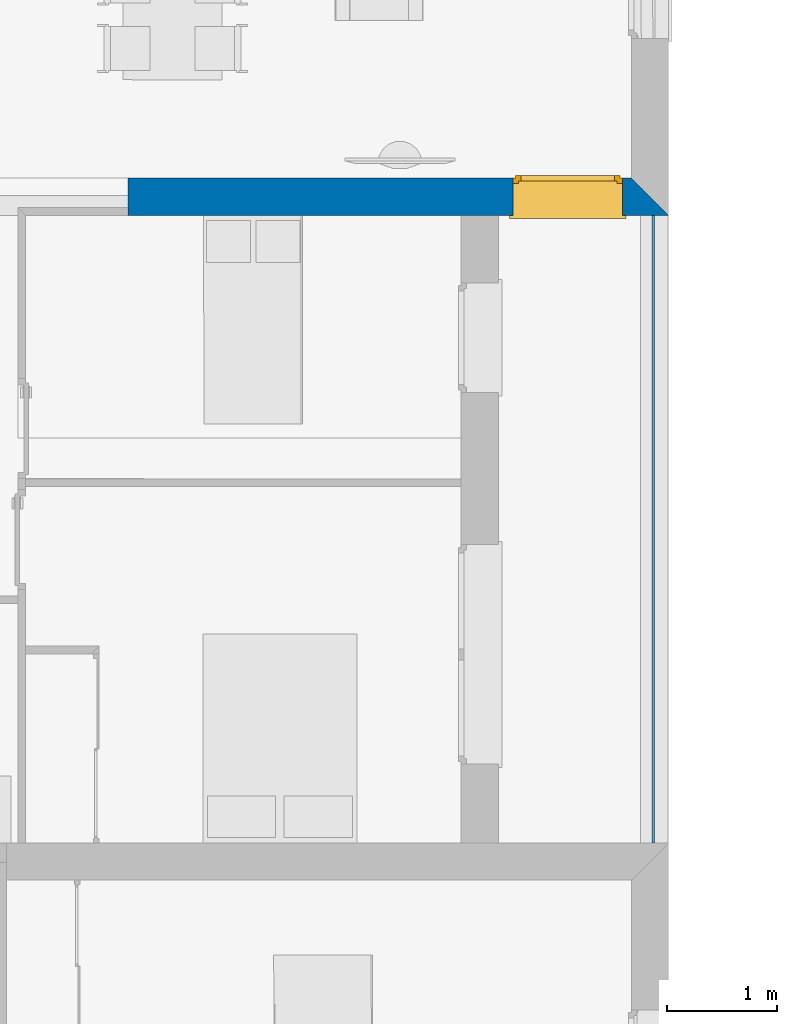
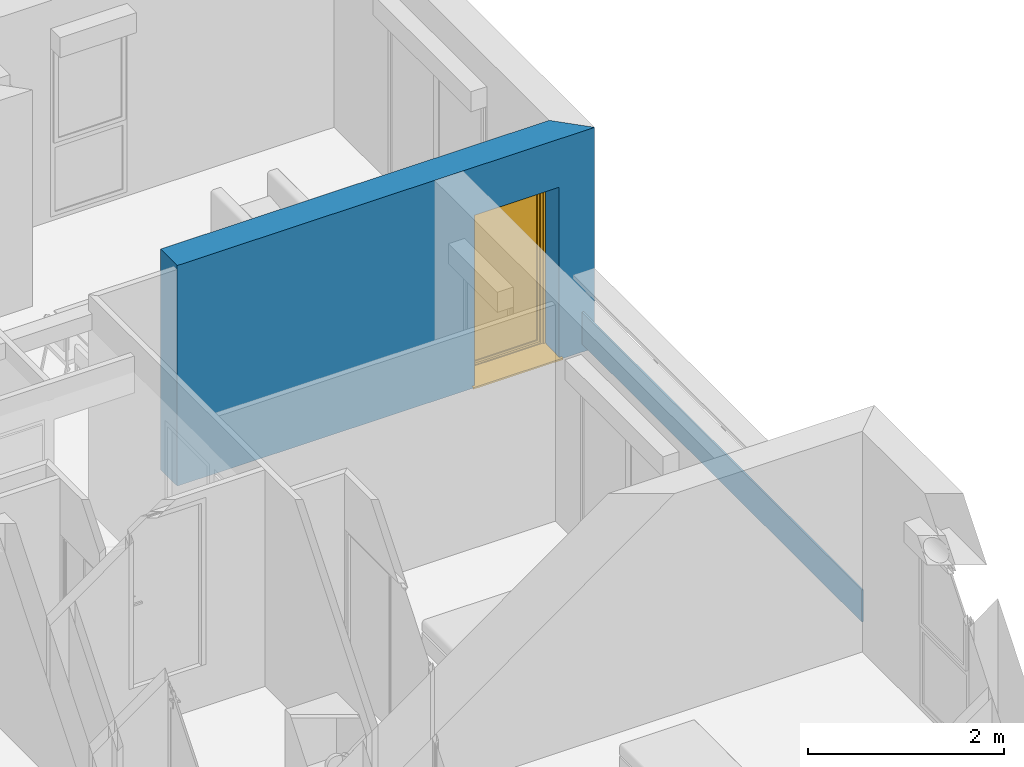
# One storey, part 38 of 164: 2 walls, 1 window, 1 opening.
"""IFC2X3 building model written with IfcOpenShell, lengths in millimetres."""

from ifc_helpers import new_model, entity, si_unit, converted_unit, derived_unit, money_unit, direction, frame, origin_with_axes, place, context, subcontext, project, spatial, polyline, outline, extrude, open_shell, faceted_brep, surface_model, source, transform, mapped, material, layer, layer_set, layer_usage, type_object, element, fill, save


model = new_model("IFC2X3")

# Units and contexts
model_context = context("Model", 3, precision=0.01, world=origin_with_axes(), true_north=direction((0.0, 1.0)))
body_context = subcontext(model_context, "Body", "Model", "MODEL_VIEW")
ifc_project = project(units=[si_unit("LENGTHUNIT", "METRE", prefix="MILLI"), si_unit("AREAUNIT", "SQUARE_METRE"), si_unit("VOLUMEUNIT", "CUBIC_METRE"), converted_unit("PLANEANGLEUNIT", "DEGREE", entity("IfcPlaneAngleMeasure", 0.0174532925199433), si_unit("PLANEANGLEUNIT", "RADIAN"), dimensions=[0, 0, 0, 0, 0, 0, 0]), money_unit("USD"), converted_unit("TIMEUNIT", "Year", entity("IfcTimeMeasure", 31557600.0), si_unit("TIMEUNIT", "SECOND"), dimensions=[0, 0, 1, 0, 0, 0, 0]), si_unit("MASSUNIT", "GRAM", prefix="KILO"), si_unit("THERMODYNAMICTEMPERATUREUNIT", "DEGREE_CELSIUS"), si_unit("LUMINOUSINTENSITYUNIT", "LUMEN"), si_unit("ENERGYUNIT", "JOULE", prefix="MEGA"), derived_unit("THERMALCONDUCTANCEUNIT", [(si_unit("POWERUNIT", "WATT"), 1), (si_unit("LENGTHUNIT", "METRE"), -1), (si_unit("THERMODYNAMICTEMPERATUREUNIT", "KELVIN"), -1)]), derived_unit("SPECIFICHEATCAPACITYUNIT", [(si_unit("ENERGYUNIT", "JOULE"), 1), (si_unit("MASSUNIT", "GRAM", prefix="KILO"), -1), (si_unit("THERMODYNAMICTEMPERATUREUNIT", "KELVIN"), -1)]), derived_unit("MASSDENSITYUNIT", [(si_unit("MASSUNIT", "GRAM", prefix="KILO"), 1), (si_unit("VOLUMEUNIT", "CUBIC_METRE"), -1)])], contexts=[model_context])

# Site, building, storey
site_placement = place(None, origin_with_axes())
site = spatial("IfcSite", under=ifc_project, at=site_placement, Name="Site", CompositionType="ELEMENT")
building_placement = place(site_placement, origin_with_axes())
building = spatial("IfcBuilding", under=site, at=building_placement, Name="Bâtiment", CompositionType="ELEMENT")
storey_placement = place(building_placement, frame((0.0, 0.0, 5750.0), z_axis=(0.0, 0.0, 1.0), x_axis=(1.0, 0.0, 0.0)))
storey = spatial("IfcBuildingStorey", under=building, at=storey_placement, Name="Etage1", CompositionType="ELEMENT", Elevation=5750.0)

# Wall
ifc_material_1 = material(Name="MANQUANT")
ifc_layer_1 = layer(ifc_material_1, 20.0, ventilated="UNKNOWN")
ifc_layer_set_1 = layer_set([ifc_layer_1], Name="MANQUANT 20")
ifc_layer_usage_1 = layer_usage(ifc_layer_set_1, "AXIS2", "NEGATIVE", 20.0)
wall_type_1 = type_object("IfcWallType", Name="MANQUANT 20", PredefinedType="NOTDEFINED")
wall_1_placement = place(storey_placement, frame((2234226.671296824, -646738.4413036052, 99.99999999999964), z_axis=(0.0, 0.0, 1.0), x_axis=(0.0, 1.0, 0.0)))
element("IfcWallStandardCase", 1, at=wall_1_placement, inside=storey, type_object=wall_type_1, material=ifc_layer_usage_1, Name="Mur-154", context=body_context, shape_type="SweptSolid", body=[
    extrude(outline(polyline([(0.0, 0.0), (5713.115765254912, 0.0), (5713.115765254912, 19.99999999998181), (0.0, 19.99999999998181), (0.0, 0.0)])), origin_with_axes(), (0.0, 0.0, 1.0), 400.0),
])

# Wall, opening, window
ifc_material_2 = material(Name="Parpaing 312445824")
ifc_layer_2 = layer(ifc_material_2, 180.0, ventilated="UNKNOWN")
ifc_material_3 = material(Name="Isolant styromousse 301821074")
ifc_layer_3 = layer(ifc_material_3, 160.0, ventilated="UNKNOWN")
ifc_layer_set_2 = layer_set([ifc_layer_2, ifc_layer_3], Name="isol int 18+16 0018356637")
ifc_layer_usage_2 = layer_usage(ifc_layer_set_2, "AXIS2", "NEGATIVE", 0.0)
wall_type_2 = type_object("IfcWallType", Name="isol int 18+16 0018356637 340", PredefinedType="NOTDEFINED")
wall_2_placement = place(storey_placement, frame((2234356.671296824, -641025.3255383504, 0.0), z_axis=(0.0, 0.0, 1.0), x_axis=(-1.0, 0.0, 0.0)))
wall_2 = element("IfcWallStandardCase", 2, at=wall_2_placement, inside=storey, type_object=wall_type_2, material=ifc_layer_usage_2, Name="Mur-144", context=body_context, shape_type="SweptSolid", body=[
    extrude(outline(polyline([(340.0000000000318, -340.0000000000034), (4921.858404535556, -340.0000000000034), (4921.858404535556, 0.0), (0.0, 0.0), (340.0000000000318, -340.0000000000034)])), origin_with_axes(), (0.0, 0.0, 1.0), 2750.0),
])
opening_placement = place(wall_2_placement, frame((918.6808707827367, 0.0, 0.0), z_axis=(0.0, 0.0, 1.0), x_axis=(1.0, 0.0, 0.0)))
opening = element("IfcOpeningElement", 3, at=opening_placement, cuts=wall_2, Name="Fen-134", context=body_context, shape_type="Brep", body=[
    faceted_brep([(500.0, -341.0000000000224, 2150.000000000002), (-500.0, -341.0000000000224, 2150.000000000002), (-500.0, -341.0000000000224, 0.0), (500.0, -341.0000000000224, 0.0), (500.0, -530.0000000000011, 2150.000000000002), (-500.0, -530.0000000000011, 2150.000000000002), (-500.0, -290.0000000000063, 2150.000000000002), (-500.0, -290.0000000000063, 0.0), (-500.0, 1.000000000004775, 0.0), (500.0, 1.000000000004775, 0.0), (500.0, -290.0000000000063, 0.0), (500.0, -290.0000000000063, 2150.000000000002), (500.0, -280.0000000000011, 2150.000000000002), (500.0, -280.0000000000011, 2400.000000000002), (500.0, -530.0000000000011, 2400.000000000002), (-500.0, -530.0000000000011, 2400.000000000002), (-500.0, -280.0000000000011, 2400.000000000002), (-500.0, -280.0000000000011, 2150.000000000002), (-500.0, 1.000000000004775, 2150.000000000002), (500.0, 1.000000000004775, 2150.000000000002)], [[[0, 1, 2, 3]], [[1, 0, 4, 5]], [[1, 6, 7, 2]], [[7, 8, 9, 10, 3, 2]], [[11, 0, 3, 10]], [[0, 11, 12, 13, 14, 4]], [[15, 5, 4, 14]], [[6, 1, 5, 15, 16, 17]], [[6, 17, 18, 8, 7]], [[19, 9, 8, 18]], [[12, 11, 10, 9, 19]], [[12, 17, 16, 13]], [[16, 15, 14, 13]], [[17, 12, 19, 18]]]),
])
window_style = type_object("IfcWindowStyle", Name="Fenêtre 27", ConstructionType="NOTDEFINED", OperationType="SINGLE_PANEL", ParameterTakesPrecedence=False, Sizeable=False)
shared_shape = source(origin_with_axes(), body_context, "Body", "SurfaceModel", [
    surface_model("IfcShellBasedSurfaceModel", [(500.0, -51.00000000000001, 40.00000000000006), (500.0, -51.00000000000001, 50.00000000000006), (-500.0, -51.00000000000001, 50.0), (-500.0, -51.00000000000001, 40.0), (530.0, -369.9999999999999, 28.96551724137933), (530.0, -339.9999999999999, 30.00324289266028), (500.0, -339.9999999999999, 30.00324289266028), (-500.0, -339.9999999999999, 30.00324289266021), (-530.0, -339.9999999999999, 30.00324289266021), (-530.0, -369.9999999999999, 28.96551724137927), (530.0, -369.9999999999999, 8.96551724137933), (-530.0, -369.9999999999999, 8.965517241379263), (530.0, -359.9999999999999, 18.96551724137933), (-530.0, -359.9999999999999, 18.96551724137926)], [open_shell([[[0, 1, 2, 3]], [[4, 5, 6, 0, 3, 7, 8, 9]], [[10, 4, 9, 11]], [[12, 10, 11, 13]]])]),
    faceted_brep([(-500.0, -59.99999999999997, 2400.0), (-497.0, -59.99999999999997, 2400.0), (-497.0, 190.0, 2400.0), (-500.0, 190.0, 2400.0), (-500.0, -59.99999999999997, 2150.0), (-497.0, -59.99999999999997, 2150.0), (-497.0, 190.0, 2150.0), (-500.0, 190.0, 2150.0)], [[[0, 1, 2, 3]], [[4, 5, 1, 0]], [[1, 5, 6, 2]], [[3, 2, 6, 7]], [[0, 3, 7, 4]], [[7, 6, 5, 4]]]),
    faceted_brep([(497.0, -59.99999999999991, 2400.0), (500.0, -59.99999999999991, 2400.0), (500.0, 190.0000000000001, 2400.0), (497.0, 190.0000000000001, 2400.0), (497.0, -59.99999999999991, 2150.0), (500.0, -59.99999999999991, 2150.0), (500.0, 190.0000000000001, 2150.0), (497.0, 190.0000000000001, 2150.0)], [[[0, 1, 2, 3]], [[4, 5, 1, 0]], [[1, 5, 6, 2]], [[3, 2, 6, 7]], [[0, 3, 7, 4]], [[7, 6, 5, 4]]]),
    faceted_brep([(-497.0, -60.0, 2150.0), (497.0, -59.99999999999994, 2150.0), (497.0, -59.99999999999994, 2400.0), (-497.0, -60.0, 2400.0), (-497.0, -56.99999999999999, 2150.0), (497.0, -56.99999999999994, 2150.0), (497.0, -56.99999999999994, 2397.0), (497.0, 187.0000000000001, 2397.0), (497.0, 187.0000000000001, 2153.0), (497.0, -37.99999999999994, 2153.0), (497.0, -37.99999999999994, 2150.0), (497.0, 190.0000000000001, 2150.0), (497.0, 190.0000000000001, 2400.0), (-497.0, 190.0, 2400.0), (-497.0, 190.0, 2150.0), (-497.0, -37.99999999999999, 2150.0), (-497.0, -37.99999999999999, 2153.0), (-497.0, 187.0, 2153.0), (-497.0, 187.0, 2397.0), (-497.0, -56.99999999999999, 2397.0)], [[[0, 1, 2, 3]], [[4, 5, 1, 0]], [[1, 5, 6, 7, 8, 9, 10, 11, 12, 2]], [[3, 2, 12, 13]], [[0, 3, 13, 14, 15, 16, 17, 18, 19, 4]], [[19, 6, 5, 4]], [[18, 7, 6, 19]], [[17, 8, 7, 18]], [[16, 9, 8, 17]], [[15, 10, 9, 16]], [[14, 11, 10, 15]], [[13, 12, 11, 14]]]),
    faceted_brep([(-494.0, -40.37442957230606, 2256.419644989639), (-494.0, -41.99999999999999, 2275.0), (-494.0, -40.37442957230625, 2293.580355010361), (-494.0, -35.54711042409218, 2311.596155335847), (-494.0, -27.66471820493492, 2328.5), (-494.0, -16.96675541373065, 2343.77827423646), (-494.0, -3.778274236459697, 2356.96675541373), (-494.0, 11.5, 2367.664718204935), (-494.0, 28.40384466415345, 2375.547110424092), (-494.0, 46.41964498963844, 2380.374429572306), (-494.0, 64.99999999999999, 2382.0), (-494.0, 83.58035501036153, 2380.374429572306), (-494.0, 101.5961553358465, 2375.547110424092), (-494.0, 118.5, 2367.664718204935), (-494.0, 133.7782742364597, 2356.96675541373), (-494.0, 146.9667554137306, 2343.77827423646), (-494.0, 157.6647182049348, 2328.5), (-494.0, 165.5471104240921, 2311.596155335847), (-494.0, 170.3744295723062, 2293.580355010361), (-494.0, 171.9999999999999, 2275.0), (-494.0, 170.3744295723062, 2256.419644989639), (-494.0, 165.5471104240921, 2238.403844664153), (-494.0, 157.6647182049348, 2221.5), (-494.0, 146.9667554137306, 2206.22172576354), (-494.0, 133.7782742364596, 2193.033244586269), (-494.0, 118.4999999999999, 2182.335281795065), (-494.0, 101.5961553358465, 2174.452889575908), (-494.0, 83.58035501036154, 2169.625570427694), (-494.0, 65.00000000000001, 2168.0), (-494.0, 46.4196449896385, 2169.625570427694), (-494.0, 28.40384466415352, 2174.452889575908), (-494.0, 11.50000000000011, 2182.335281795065), (-494.0, -3.778274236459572, 2193.033244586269), (-494.0, -16.9667554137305, 2206.22172576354), (-494.0, -27.66471820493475, 2221.5), (-494.0, -35.54711042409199, 2238.403844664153), (494.0, -40.374429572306, 2256.419644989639), (494.0, -41.99999999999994, 2275.0), (494.0, -40.37442957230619, 2293.580355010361), (494.0, -35.54711042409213, 2311.596155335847), (494.0, -27.66471820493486, 2328.5), (494.0, -16.96675541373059, 2343.77827423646), (494.0, -3.778274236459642, 2356.96675541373), (494.0, 11.50000000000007, 2367.664718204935), (494.0, 28.40384466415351, 2375.547110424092), (494.0, 46.41964498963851, 2380.374429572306), (494.0, 65.00000000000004, 2382.0), (494.0, 83.58035501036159, 2380.374429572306), (494.0, 101.5961553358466, 2375.547110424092), (494.0, 118.5, 2367.664718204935), (494.0, 133.7782742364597, 2356.96675541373), (494.0, 146.9667554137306, 2343.77827423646), (494.0, 157.6647182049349, 2328.5), (494.0, 165.5471104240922, 2311.596155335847), (494.0, 170.3744295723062, 2293.580355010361), (494.0, 172.0, 2275.0), (494.0, 170.3744295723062, 2256.419644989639), (494.0, 165.5471104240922, 2238.403844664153), (494.0, 157.6647182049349, 2221.5), (494.0, 146.9667554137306, 2206.22172576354), (494.0, 133.7782742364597, 2193.033244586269), (494.0, 118.5, 2182.335281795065), (494.0, 101.5961553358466, 2174.452889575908), (494.0, 83.5803550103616, 2169.625570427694), (494.0, 65.00000000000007, 2168.0), (494.0, 46.41964498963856, 2169.625570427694), (494.0, 28.40384466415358, 2174.452889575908), (494.0, 11.50000000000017, 2182.335281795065), (494.0, -3.778274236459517, 2193.033244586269), (494.0, -16.96675541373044, 2206.22172576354), (494.0, -27.6647182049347, 2221.5), (494.0, -35.54711042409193, 2238.403844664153)], [[[0, 1, 2, 3, 4, 5, 6, 7, 8, 9, 10, 11, 12, 13, 14, 15, 16, 17, 18, 19, 20, 21, 22, 23, 24, 25, 26, 27, 28, 29, 30, 31, 32, 33, 34, 35]], [[0, 36, 37, 1]], [[1, 37, 38, 2]], [[2, 38, 39, 3]], [[3, 39, 40, 4]], [[4, 40, 41, 5]], [[5, 41, 42, 6]], [[6, 42, 43, 7]], [[7, 43, 44, 8]], [[8, 44, 45, 9]], [[9, 45, 46, 10]], [[10, 46, 47, 11]], [[11, 47, 48, 12]], [[12, 48, 49, 13]], [[13, 49, 50, 14]], [[14, 50, 51, 15]], [[15, 51, 52, 16]], [[16, 52, 53, 17]], [[17, 53, 54, 18]], [[18, 54, 55, 19]], [[19, 55, 56, 20]], [[20, 56, 57, 21]], [[21, 57, 58, 22]], [[22, 58, 59, 23]], [[23, 59, 60, 24]], [[24, 60, 61, 25]], [[25, 61, 62, 26]], [[26, 62, 63, 27]], [[27, 63, 64, 28]], [[28, 64, 65, 29]], [[29, 65, 66, 30]], [[30, 66, 67, 31]], [[31, 67, 68, 32]], [[32, 68, 69, 33]], [[33, 69, 70, 34]], [[34, 70, 71, 35]], [[35, 71, 36, 0]], [[36, 71, 70, 69, 68, 67, 66, 65, 64, 63, 62, 61, 60, 59, 58, 57, 56, 55, 54, 53, 52, 51, 50, 49, 48, 47, 46, 45, 44, 43, 42, 41, 40, 39, 38, 37]]]),
    faceted_brep([(500.0, -34.99999999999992, 30.0), (500.0, -34.99999999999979, 2150.0), (500.0, -59.99999999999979, 2150.0), (500.0, -59.99999999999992, 30.0), (475.0, -34.99999999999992, 30.0), (475.0, -34.99999999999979, 2150.0), (475.0, -37.99999999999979, 2150.0), (497.0, -37.99999999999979, 2150.0), (497.0, -56.99999999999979, 2150.0), (475.0, -56.99999999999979, 2150.0), (475.0, -59.99999999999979, 2150.0), (475.0, -59.99999999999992, 30.0), (475.0, -56.99999999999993, 30.0), (497.0, -56.99999999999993, 30.0), (497.0, -37.99999999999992, 30.0), (475.0, -37.99999999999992, 30.0)], [[[0, 1, 2, 3]], [[4, 5, 1, 0]], [[1, 5, 6, 7, 8, 9, 10, 2]], [[3, 2, 10, 11]], [[0, 3, 11, 12, 13, 14, 15, 4]], [[15, 6, 5, 4]], [[14, 7, 6, 15]], [[13, 8, 7, 14]], [[12, 9, 8, 13]], [[11, 10, 9, 12]]]),
    faceted_brep([(-500.0, -34.99999999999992, 30.0), (-500.0, -59.99999999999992, 30.0), (-500.0, -59.99999999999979, 2150.0), (-500.0, -34.99999999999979, 2150.0), (-475.0, -34.99999999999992, 30.0), (-475.0, -37.99999999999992, 30.0), (-497.0, -37.99999999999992, 30.0), (-497.0, -56.99999999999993, 30.0), (-475.0, -56.99999999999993, 30.0), (-475.0, -59.99999999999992, 30.0), (-475.0, -59.99999999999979, 2150.0), (-475.0, -56.99999999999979, 2150.0), (-497.0, -56.99999999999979, 2150.0), (-497.0, -37.99999999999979, 2150.0), (-475.0, -37.99999999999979, 2150.0), (-475.0, -34.99999999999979, 2150.0)], [[[0, 1, 2, 3]], [[0, 4, 5, 6, 7, 8, 9, 1]], [[1, 9, 10, 2]], [[3, 2, 10, 11, 12, 13, 14, 15]], [[4, 0, 3, 15]], [[5, 4, 15, 14]], [[6, 5, 14, 13]], [[7, 6, 13, 12]], [[8, 7, 12, 11]], [[9, 8, 11, 10]]]),
    faceted_brep([(497.0, -46.66666666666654, 2275.0), (497.0, -46.66666666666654, 2266.666666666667), (-497.0, -46.6666666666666, 2266.666666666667), (-497.0, -46.6666666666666, 2275.0), (497.0, -51.66666666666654, 2275.0), (497.0, -51.66666666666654, 2266.666666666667), (497.0, -49.99999999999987, 2250.0), (497.0, -44.99999999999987, 2250.0), (-497.0, -44.99999999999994, 2250.0), (-497.0, -49.99999999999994, 2250.0), (-497.0, -51.6666666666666, 2266.666666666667), (-497.0, -51.6666666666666, 2275.0)], [[[0, 1, 2, 3]], [[4, 5, 6, 7, 1, 0]], [[2, 1, 7, 8]], [[3, 2, 8, 9, 10, 11]], [[3, 11, 4, 0]], [[10, 5, 4, 11]], [[9, 6, 5, 10]], [[8, 7, 6, 9]]]),
    faceted_brep([(-497.0, -44.99999999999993, 2250.0), (497.0, -44.99999999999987, 2250.0), (497.0, -46.66666666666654, 2233.333333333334), (-497.0, -46.6666666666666, 2233.333333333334), (-497.0, -49.99999999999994, 2250.0), (497.0, -49.99999999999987, 2250.0), (497.0, -51.66666666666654, 2233.333333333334), (497.0, -51.66666666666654, 2216.666666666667), (497.0, -49.99999999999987, 2200.0), (497.0, -44.99999999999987, 2200.0), (497.0, -46.66666666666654, 2216.666666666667), (-497.0, -46.6666666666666, 2216.666666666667), (-497.0, -44.99999999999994, 2200.0), (-497.0, -49.99999999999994, 2200.0), (-497.0, -51.6666666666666, 2216.666666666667), (-497.0, -51.6666666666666, 2233.333333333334)], [[[0, 1, 2, 3]], [[4, 5, 1, 0]], [[1, 5, 6, 7, 8, 9, 10, 2]], [[3, 2, 10, 11]], [[0, 3, 11, 12, 13, 14, 15, 4]], [[15, 6, 5, 4]], [[14, 7, 6, 15]], [[13, 8, 7, 14]], [[12, 9, 8, 13]], [[11, 10, 9, 12]]]),
    faceted_brep([(-497.0, -44.99999999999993, 2200.0), (497.0, -44.99999999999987, 2200.0), (497.0, -46.66666666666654, 2183.333333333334), (-497.0, -46.6666666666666, 2183.333333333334), (-497.0, -49.99999999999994, 2200.0), (497.0, -49.99999999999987, 2200.0), (497.0, -51.66666666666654, 2183.333333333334), (497.0, -51.66666666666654, 2166.666666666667), (497.0, -49.99999999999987, 2150.000000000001), (497.0, -44.99999999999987, 2150.000000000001), (497.0, -46.66666666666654, 2166.666666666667), (-497.0, -46.6666666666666, 2166.666666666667), (-497.0, -44.99999999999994, 2150.000000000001), (-497.0, -49.99999999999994, 2150.000000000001), (-497.0, -51.6666666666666, 2166.666666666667), (-497.0, -51.6666666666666, 2183.333333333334)], [[[0, 1, 2, 3]], [[4, 5, 1, 0]], [[1, 5, 6, 7, 8, 9, 10, 2]], [[3, 2, 10, 11]], [[0, 3, 11, 12, 13, 14, 15, 4]], [[15, 6, 5, 4]], [[14, 7, 6, 15]], [[13, 8, 7, 14]], [[12, 9, 8, 13]], [[11, 10, 9, 12]]]),
    faceted_brep([(-475.0000000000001, 0.0, 2100.0), (-500.0, 0.0, 2100.0), (-500.0, -50.00000000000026, 2100.0), (-450.0, -50.00000000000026, 2100.0), (-450.0, -25.00000000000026, 2100.0), (-475.0000000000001, -25.00000000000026, 2100.0), (-475.0000000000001, 0.0, 50.00000000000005), (-500.0, 0.0, 50.00000000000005), (-500.0, -50.00000000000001, 50.00000000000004), (-450.0, -50.00000000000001, 50.00000000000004), (-450.0, -25.00000000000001, 50.00000000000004), (-475.0000000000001, -25.00000000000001, 50.00000000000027)], [[[0, 1, 2, 3, 4, 5]], [[6, 7, 1, 0]], [[1, 7, 8, 2]], [[2, 8, 9, 3]], [[4, 3, 9, 10]], [[10, 11, 5, 4]], [[5, 11, 6, 0]], [[11, 10, 9, 8, 7, 6]]]),
    faceted_brep([(450.0, -25.00000000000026, 2100.0), (450.0, -50.00000000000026, 2100.0), (500.0, -50.00000000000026, 2100.0), (500.0, 0.0, 2100.0), (475.0000000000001, 0.0, 2100.0), (475.0000000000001, -25.00000000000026, 2100.0), (450.0, -25.00000000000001, 50.00000000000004), (450.0, -50.00000000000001, 50.00000000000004), (500.0, -50.00000000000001, 50.00000000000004), (500.0, 0.0, 50.00000000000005), (475.0000000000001, 0.0, 50.00000000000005), (475.0000000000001, -25.00000000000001, 50.00000000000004)], [[[0, 1, 2, 3, 4, 5]], [[6, 7, 1, 0]], [[8, 2, 1, 7]], [[9, 3, 2, 8]], [[4, 3, 9, 10]], [[10, 11, 5, 4]], [[5, 11, 6, 0]], [[11, 10, 9, 8, 7, 6]]]),
    faceted_brep([(450.0, -25.00000000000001, 50.00000000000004), (450.0, -50.00000000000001, 50.00000000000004), (500.0, -50.00000000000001, 50.00000000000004), (500.0, 0.0, 50.00000000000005), (475.0000000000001, 0.0, 50.00000000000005), (475.0000000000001, -25.00000000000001, 50.00000000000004), (-450.0, -25.00000000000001, 50.00000000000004), (-450.0, -50.00000000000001, 50.00000000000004), (-500.0, -50.00000000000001, 50.00000000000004), (-500.0, -50.0, 0.0), (500.0, -50.0, 0.0), (500.0, 0.0, 0.0), (-475.0000000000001, 0.0, 24.99999999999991), (475.0000000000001, 0.0, 24.99999999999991), (-500.0, 0.0, 0.0), (-500.0, 0.0, 50.00000000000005), (-475.0000000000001, 0.0, 50.00000000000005), (475.0000000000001, -25.0, 24.99999999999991), (-475.0000000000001, -25.0, 24.99999999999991), (-475.0000000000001, -25.00000000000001, 50.00000000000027)], [[[0, 1, 2, 3, 4, 5]], [[6, 7, 1, 0]], [[8, 9, 10, 2, 1, 7]], [[11, 3, 2, 10]], [[12, 13, 4, 3, 11, 14, 15, 16]], [[13, 17, 5, 4]], [[5, 17, 18, 19, 6, 0]], [[19, 16, 15, 8, 7, 6]], [[15, 14, 9, 8]], [[14, 11, 10, 9]], [[12, 18, 17, 13]], [[19, 18, 12, 16]]]),
    faceted_brep([(-475.0000000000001, 0.0, 2100.0), (-500.0, 0.0, 2100.0), (-500.0, 0.0, 2150.0), (500.0, 0.0, 2150.0), (500.0, 0.0, 2100.0), (475.0000000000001, 0.0, 2100.0), (475.0000000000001, 0.0, 2125.0), (-475.0000000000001, 0.0, 2125.0), (-475.0000000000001, -25.00000000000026, 2100.0), (-450.0, -25.00000000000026, 2100.0), (-450.0, -50.00000000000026, 2100.0), (-500.0, -50.00000000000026, 2100.0), (-500.0, -50.00000000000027, 2150.0), (500.0, -50.00000000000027, 2150.0), (500.0, -50.00000000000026, 2100.0), (475.0000000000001, -25.00000000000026, 2100.0), (450.0, -50.00000000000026, 2100.0), (450.0, -25.00000000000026, 2100.0), (475.0000000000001, -25.00000000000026, 2125.0), (-475.0000000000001, -25.00000000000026, 2125.0)], [[[0, 1, 2, 3, 4, 5, 6, 7]], [[8, 9, 10, 11, 1, 0]], [[2, 1, 11, 12]], [[3, 2, 12, 13]], [[4, 3, 13, 14]], [[15, 5, 4, 14, 16, 17]], [[5, 15, 18, 6]], [[6, 18, 19, 7]], [[7, 19, 8, 0]], [[17, 9, 8, 19, 18, 15]], [[17, 16, 10, 9]], [[14, 13, 12, 11, 10, 16]]]),
    faceted_brep([(-425.0000000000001, -25.00000000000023, 2075.0), (-425.0000000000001, 24.99999999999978, 2075.0), (-475.0000000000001, 24.99999999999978, 2075.0), (-475.0000000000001, -25.00000000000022, 2075.0), (-425.0000000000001, -24.99999999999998, 75.00000000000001), (-425.0000000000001, 25.00000000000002, 75.00000000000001), (-475.0000000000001, 25.00000000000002, 75.00000000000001), (-475.0000000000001, -24.99999999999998, 75.00000000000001)], [[[0, 1, 2, 3]], [[4, 5, 1, 0]], [[1, 5, 6, 2]], [[3, 2, 6, 7]], [[0, 3, 7, 4]], [[7, 6, 5, 4]]]),
    faceted_brep([(425.0000000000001, -25.00000000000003, 75.00000000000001), (425.0000000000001, 24.99999999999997, 75.00000000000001), (475.0000000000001, 24.99999999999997, 75.00000000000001), (475.0000000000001, -25.00000000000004, 75.00000000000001), (425.0000000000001, -25.00000000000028, 2075.0), (425.0000000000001, 24.99999999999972, 2075.0), (475.0000000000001, 24.99999999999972, 2075.0), (475.0000000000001, -25.00000000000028, 2075.0)], [[[0, 1, 2, 3]], [[4, 5, 1, 0]], [[1, 5, 6, 2]], [[3, 2, 6, 7]], [[0, 3, 7, 4]], [[7, 6, 5, 4]]]),
    faceted_brep([(475.0000000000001, -25.00000000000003, 25.0), (475.0000000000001, 24.99999999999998, 25.00000000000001), (475.0000000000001, 24.99999999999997, 75.00000000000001), (475.0000000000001, -25.00000000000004, 75.00000000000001), (-475.0000000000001, -24.99999999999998, 25.0), (-475.0000000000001, 25.00000000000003, 25.00000000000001), (-475.0000000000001, 25.00000000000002, 75.00000000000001), (-425.0000000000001, 25.00000000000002, 75.00000000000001), (425.0000000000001, 24.99999999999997, 75.00000000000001), (425.0000000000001, -25.00000000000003, 75.00000000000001), (-425.0000000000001, -24.99999999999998, 75.00000000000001), (-475.0000000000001, -24.99999999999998, 75.00000000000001)], [[[0, 1, 2, 3]], [[4, 5, 1, 0]], [[1, 5, 6, 7, 8, 2]], [[3, 2, 8, 9]], [[0, 3, 9, 10, 11, 4]], [[11, 6, 5, 4]], [[10, 7, 6, 11]], [[9, 8, 7, 10]]]),
    faceted_brep([(-475.0000000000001, -25.00000000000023, 2125.0), (-475.0000000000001, 24.99999999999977, 2125.0), (-475.0000000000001, 24.99999999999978, 2075.0), (-475.0000000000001, -25.00000000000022, 2075.0), (475.0000000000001, -25.00000000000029, 2125.0), (475.0000000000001, 24.99999999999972, 2125.0), (475.0000000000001, 24.99999999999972, 2075.0), (425.0000000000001, 24.99999999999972, 2075.0), (-425.0000000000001, 24.99999999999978, 2075.0), (-425.0000000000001, -25.00000000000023, 2075.0), (425.0000000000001, -25.00000000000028, 2075.0), (475.0000000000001, -25.00000000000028, 2075.0)], [[[0, 1, 2, 3]], [[4, 5, 1, 0]], [[1, 5, 6, 7, 8, 2]], [[3, 2, 8, 9]], [[0, 3, 9, 10, 11, 4]], [[11, 6, 5, 4]], [[10, 7, 6, 11]], [[9, 8, 7, 10]]]),
    surface_model("IfcShellBasedSurfaceModel", [(-425.0000000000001, -10.00000000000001, 75.00000000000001), (425.0000000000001, -10.00000000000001, 75.00000000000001), (425.0000000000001, -10.00000000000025, 2075.0), (-425.0000000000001, -10.00000000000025, 2075.0)], [open_shell([[[0, 1, 2, 3]]])]),
    surface_model("IfcShellBasedSurfaceModel", [(-425.0000000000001, 9.999999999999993, 75.00000000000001), (-425.0000000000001, 9.99999999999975, 2075.0), (425.0000000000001, 9.99999999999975, 2075.0), (425.0000000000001, 9.999999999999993, 75.00000000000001)], [open_shell([[[0, 1, 2, 3]]])]),
])
window_placement = place(opening_placement, frame((500.0, 0.0, 0.0), z_axis=(0.0, 0.0, 1.0), x_axis=(-1.0, 0.0, 0.0)))
window = element("IfcWindow", 4, at=window_placement, inside=storey, type_object=window_style, Name="Fen-134", OverallHeight=2150.0, OverallWidth=1000.0, context=body_context, shape_type="MappedRepresentation", body=[
    mapped(shared_shape, transform((500.0, 340.0000000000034, 0.0))),
])
fill(opening, window)

save(model, "model.ifc")
